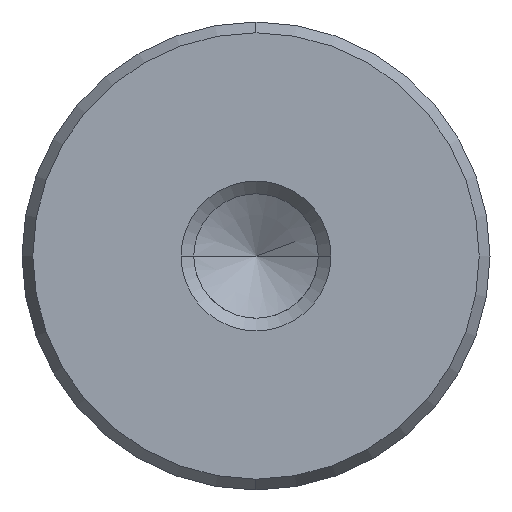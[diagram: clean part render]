
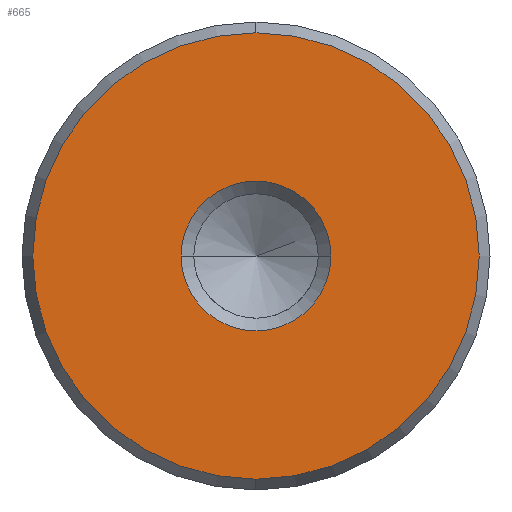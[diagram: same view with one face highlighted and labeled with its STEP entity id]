
A CAD part, left-side view. The second image highlights one B-rep face of the part: STEP entity #665.
In plain terms, the highlighted planar face has unit normal (-1, 0, 0).
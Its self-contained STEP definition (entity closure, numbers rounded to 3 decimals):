
#579=CARTESIAN_POINT('Vertex',(0.,0.,-11.923)) ;
#582=CARTESIAN_POINT('Axis2P3D Location',(0.,0.,0.)) ;
#586=CARTESIAN_POINT('Vertex',(0.,11.923,0.)) ;
#589=CARTESIAN_POINT('Axis2P3D Location',(0.,0.,0.)) ;
#593=CARTESIAN_POINT('Vertex',(0.,0.,11.923)) ;
#615=CARTESIAN_POINT('Axis2P3D Location',(0.,0.,0.)) ;
#619=CARTESIAN_POINT('Vertex',(0.,-11.923,0.)) ;
#622=CARTESIAN_POINT('Axis2P3D Location',(0.,0.,0.)) ;
#636=CARTESIAN_POINT('Axis2P3D Location',(0.,0.,0.)) ;
#647=CARTESIAN_POINT('Axis2P3D Location',(0.,0.,0.)) ;
#651=CARTESIAN_POINT('Vertex',(0.,4.,0.)) ;
#653=CARTESIAN_POINT('Vertex',(0.,-4.,0.)) ;
#656=CARTESIAN_POINT('Axis2P3D Location',(0.,0.,0.)) ;
#583=DIRECTION('Axis2P3D Direction',(1.,0.,-0.)) ;
#590=DIRECTION('Axis2P3D Direction',(1.,0.,-0.)) ;
#616=DIRECTION('Axis2P3D Direction',(1.,0.,-0.)) ;
#623=DIRECTION('Axis2P3D Direction',(1.,0.,-0.)) ;
#637=DIRECTION('Axis2P3D Direction',(1.,0.,-0.)) ;
#638=DIRECTION('Axis2P3D XDirection',(-0.,0.,-1.)) ;
#648=DIRECTION('Axis2P3D Direction',(1.,0.,-0.)) ;
#657=DIRECTION('Axis2P3D Direction',(1.,0.,-0.)) ;
#584=AXIS2_PLACEMENT_3D('Circle Axis2P3D',#582,#583,$) ;
#591=AXIS2_PLACEMENT_3D('Circle Axis2P3D',#589,#590,$) ;
#617=AXIS2_PLACEMENT_3D('Circle Axis2P3D',#615,#616,$) ;
#624=AXIS2_PLACEMENT_3D('Circle Axis2P3D',#622,#623,$) ;
#639=AXIS2_PLACEMENT_3D('Plane Axis2P3D',#636,#637,#638) ;
#649=AXIS2_PLACEMENT_3D('Circle Axis2P3D',#647,#648,$) ;
#658=AXIS2_PLACEMENT_3D('Circle Axis2P3D',#656,#657,$) ;
#642=ORIENTED_EDGE('',*,*,#588,.F.) ;
#643=ORIENTED_EDGE('',*,*,#626,.F.) ;
#644=ORIENTED_EDGE('',*,*,#621,.F.) ;
#645=ORIENTED_EDGE('',*,*,#595,.F.) ;
#662=ORIENTED_EDGE('',*,*,#655,.T.) ;
#663=ORIENTED_EDGE('',*,*,#660,.T.) ;
#664=FACE_BOUND('',#661,.T.) ;
#665=ADVANCED_FACE('720-25x500',(#646,#664),#640,.F.) ;
#585=CIRCLE('generated circle',#584,11.923) ;
#592=CIRCLE('generated circle',#591,11.923) ;
#618=CIRCLE('generated circle',#617,11.923) ;
#625=CIRCLE('generated circle',#624,11.923) ;
#650=CIRCLE('generated circle',#649,4.) ;
#659=CIRCLE('generated circle',#658,4.) ;
#588=EDGE_CURVE('',#580,#587,#585,.T.) ;
#595=EDGE_CURVE('',#587,#594,#592,.T.) ;
#621=EDGE_CURVE('',#594,#620,#618,.T.) ;
#626=EDGE_CURVE('',#620,#580,#625,.T.) ;
#655=EDGE_CURVE('',#652,#654,#650,.T.) ;
#660=EDGE_CURVE('',#654,#652,#659,.T.) ;
#641=EDGE_LOOP('',(#642,#643,#644,#645)) ;
#661=EDGE_LOOP('',(#662,#663)) ;
#646=FACE_OUTER_BOUND('',#641,.T.) ;
#640=PLANE('Plane',#639) ;
#580=VERTEX_POINT('',#579) ;
#587=VERTEX_POINT('',#586) ;
#594=VERTEX_POINT('',#593) ;
#620=VERTEX_POINT('',#619) ;
#652=VERTEX_POINT('',#651) ;
#654=VERTEX_POINT('',#653) ;
